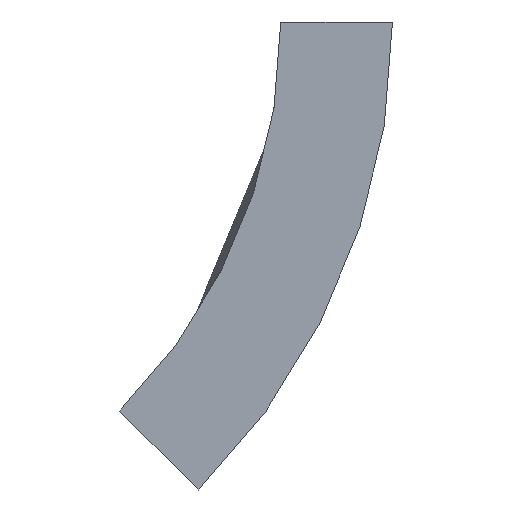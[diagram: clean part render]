
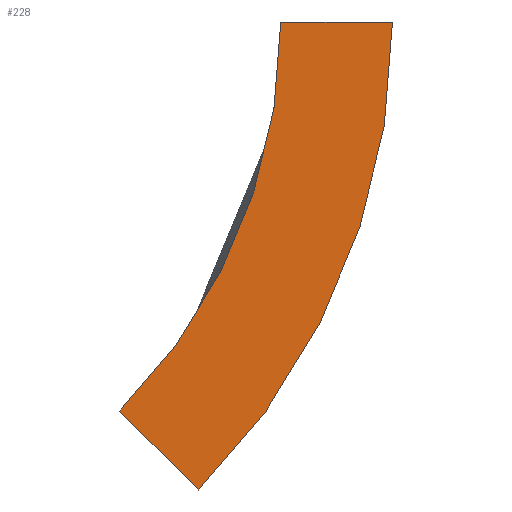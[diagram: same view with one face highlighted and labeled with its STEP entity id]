
A CAD part, left-side view. The second image highlights one B-rep face of the part: STEP entity #228.
In plain terms, the highlighted planar face has unit normal (-1, 0, 0).
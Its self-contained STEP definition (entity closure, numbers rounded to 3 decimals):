
#19 = DIRECTION ( 'NONE',  ( 0., 0., 1. ) ) ;
#51 = CARTESIAN_POINT ( 'NONE',  ( -153.5, 28.85, -69.65 ) ) ;
#57 = DIRECTION ( 'NONE',  ( 0., 0., -1. ) ) ;
#58 = CARTESIAN_POINT ( 'NONE',  ( -153.5, 14.708, -83.792 ) ) ;
#107 = DIRECTION ( 'NONE',  ( 1., 0., 0. ) ) ;
#114 = CIRCLE ( 'NONE', #184, 118.5 ) ;
#131 = EDGE_CURVE ( 'NONE', #543, #554, #474, .T. ) ;
#149 = DIRECTION ( 'NONE',  ( 0., 0., 1. ) ) ;
#168 = ORIENTED_EDGE ( 'NONE', *, *, #131, .F. ) ;
#171 = VERTEX_POINT ( 'NONE', #383 ) ;
#183 = EDGE_CURVE ( 'NONE', #372, #543, #114, .T. ) ;
#184 = AXIS2_PLACEMENT_3D ( 'NONE', #432, #107, #57 ) ;
#195 = EDGE_CURVE ( 'NONE', #554, #171, #321, .T. ) ;
#228 = ADVANCED_FACE ( 'NONE', ( #409 ), #593, .T. ) ;
#248 = CARTESIAN_POINT ( 'NONE',  ( -153.5, 0., 0. ) ) ;
#250 = AXIS2_PLACEMENT_3D ( 'NONE', #572, #339, #149 ) ;
#258 = ORIENTED_EDGE ( 'NONE', *, *, #183, .F. ) ;
#259 = CARTESIAN_POINT ( 'NONE',  ( -153.5, -20., 0. ) ) ;
#313 = CARTESIAN_POINT ( 'NONE',  ( -153.5, 98.5, 0. ) ) ;
#321 = CIRCLE ( 'NONE', #250, 98.5 ) ;
#330 = CARTESIAN_POINT ( 'NONE',  ( -153.5, 14.708, -83.792 ) ) ;
#339 = DIRECTION ( 'NONE',  ( -1., 0., 0. ) ) ;
#355 = DIRECTION ( 'NONE',  ( -1., 0., 0. ) ) ;
#361 = ORIENTED_EDGE ( 'NONE', *, *, #195, .F. ) ;
#372 = VERTEX_POINT ( 'NONE', #259 ) ;
#383 = CARTESIAN_POINT ( 'NONE',  ( -153.5, 0., 0. ) ) ;
#409 = FACE_OUTER_BOUND ( 'NONE', #417, .T. ) ;
#412 = VECTOR ( 'NONE', #428, 1000. ) ;
#417 = EDGE_LOOP ( 'NONE', ( #168, #258, #588, #361 ) ) ;
#421 = VECTOR ( 'NONE', #568, 1000. ) ;
#426 = EDGE_CURVE ( 'NONE', #171, #372, #531, .T. ) ;
#428 = DIRECTION ( 'NONE',  ( 0., 0.707, 0.707 ) ) ;
#432 = CARTESIAN_POINT ( 'NONE',  ( -153.5, 98.5, 0. ) ) ;
#474 = LINE ( 'NONE', #330, #412 ) ;
#500 = AXIS2_PLACEMENT_3D ( 'NONE', #313, #355, #19 ) ;
#531 = LINE ( 'NONE', #248, #421 ) ;
#543 = VERTEX_POINT ( 'NONE', #58 ) ;
#554 = VERTEX_POINT ( 'NONE', #51 ) ;
#568 = DIRECTION ( 'NONE',  ( 0., -1., 0. ) ) ;
#572 = CARTESIAN_POINT ( 'NONE',  ( -153.5, 98.5, 0. ) ) ;
#588 = ORIENTED_EDGE ( 'NONE', *, *, #426, .F. ) ;
#593 = PLANE ( 'NONE',  #500 ) ;
